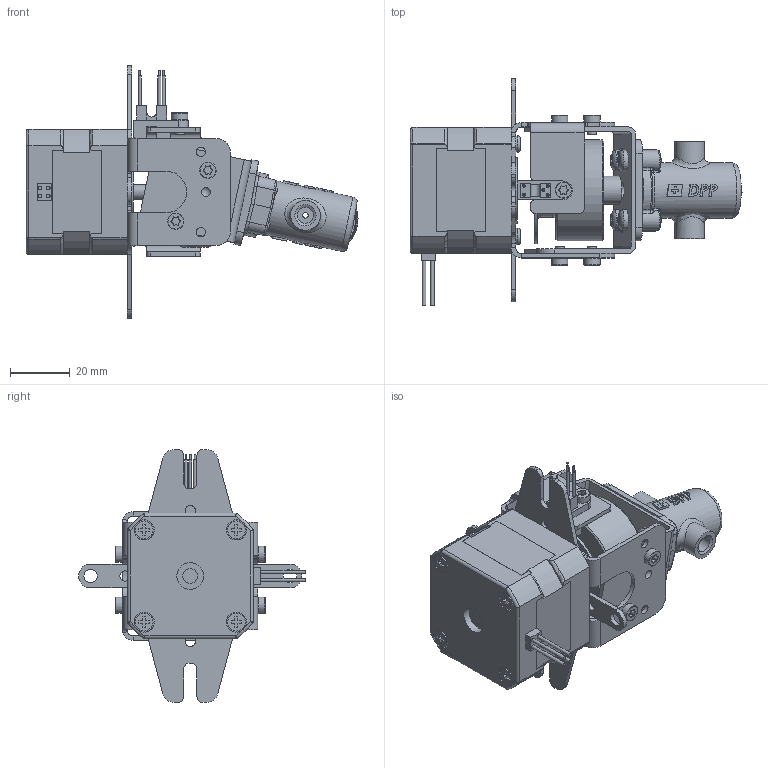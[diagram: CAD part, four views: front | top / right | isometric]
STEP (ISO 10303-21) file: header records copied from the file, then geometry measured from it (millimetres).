
FILE_DESCRIPTION (( 'STEP AP214' ), '1' );
FILE_NAME ('PD0022A1.STEP', '2017-03-06T17:05:25', ( '' ), ( '' ), 'SwSTEP 2.0', 'SolidWorks 2015', '' );
FILE_SCHEMA (( 'AUTOMOTIVE_DESIGN' ));
Length unit declared in the file: millimetre
Products named in the file (22): PD22-SC-1_SC0112; PD0022A1; PD22-PA-1; PD22-PA-0; PD22-EA-1; PD22-DP-0; PD22-EL-0; PD22-CH-1A1; PD22-CH-0A1; Housing^PD22-CH-0A1; PD22-MB-1; PD22-MA-0; PD22-EA-0; PD22-CP-1; PD22-DE-0; PD22-MO-0; PD22-SC-0_SC0111; PD22-OS-0; PD03-SC-0; PD22-SC-2_SC0104; PD22-MB-0_Standard; PD22-PP-0
Assembly tree (30 placements, depth 6):
  PD0022A1
    PD22-MA-0
      PD22-MB-0_Standard
      PD03-SC-0  x4
      PD22-OS-0
      PD22-SC-0_SC0111
      PD22-MO-0
      PD22-EA-0
        PD22-DE-0
        PD22-CP-1
    PD22-PP-0
      PD22-MB-1
      PD22-PA-1
        PD22-CH-1A1
          PD22-CH-0A1
            Housing^PD22-CH-0A1
        PD22-PA-0
          PD22-EA-1
            PD22-EL-0
            PD22-DP-0
      PD22-SC-1_SC0112  x4
    PD22-SC-2_SC0104  x4
Bounding box: 111.57 x 76.15 x 85 mm (x, y, z)
Volume: 97737.4 mm3; surface area: 45135.1 mm2
Topology: 22 solids, 22 shells, 1003 faces, 2496 edges, 1602 vertices
Faces by surface type: plane 440, cylinder 370, bspline 123, torus 32, cone 24, sphere 14
Full cylindrical faces by diameter (mm): 0.05 x2, 0.6 x5, 1 x5, 1.25 x4, 1.88 x2, 2.5 x10, 3 x5, 3.02 x1, 3.04 x1, 3.065 x2, 3.1 x4, 3.18 x1, 3.5 x12, 3.9 x4, 4 x4, 4.5 x2, 4.8 x2, 5 x3, 5.2 x1, 5.41 x2, 5.5 x9, 6 x4, 6.8 x4, 7 x6, 9 x1, 9.5 x1, 10 x2, 10.1 x1, 10.5 x1, 12 x2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
Entity records: 32284 total; most frequent: CARTESIAN_POINT 11783, ORIENTED_EDGE 4054, DIRECTION 3729, EDGE_CURVE 2027, AXIS2_PLACEMENT_3D 1370, VERTEX_POINT 1369, EDGE_LOOP 1154, LINE 989
